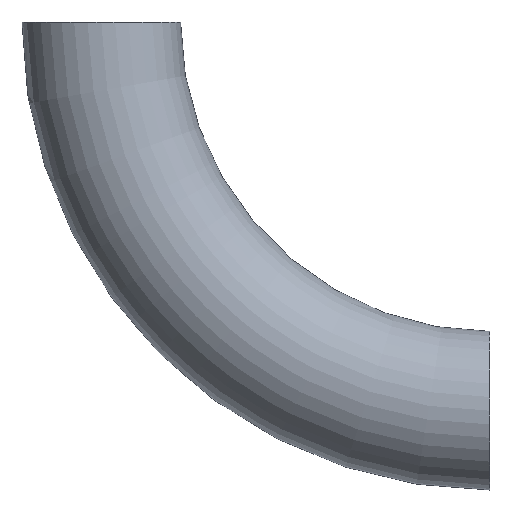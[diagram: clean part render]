
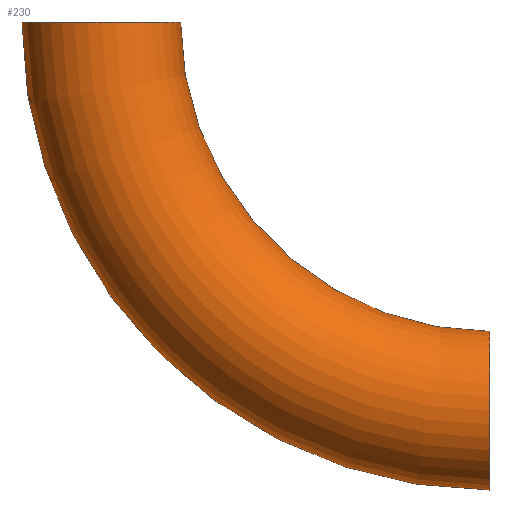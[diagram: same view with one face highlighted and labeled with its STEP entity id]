
A CAD part, front view. The second image highlights one B-rep face of the part: STEP entity #230.
In plain terms, the highlighted toroidal (fillet/blend) face has major radius 500 mm and minor radius 102 mm.
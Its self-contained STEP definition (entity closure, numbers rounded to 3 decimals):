
#4 = ORIENTED_EDGE ( 'NONE', *, *, #61, .F. ) ;
#9 = CARTESIAN_POINT ( 'NONE',  ( -398., 0., 0. ) ) ;
#12 = DIRECTION ( 'NONE',  ( 0., 1., 0. ) ) ;
#14 = CARTESIAN_POINT ( 'NONE',  ( -500., 0., 0. ) ) ;
#16 = AXIS2_PLACEMENT_3D ( 'NONE', #14, #166, #49 ) ;
#30 = CARTESIAN_POINT ( 'NONE',  ( 0., 0., 0. ) ) ;
#31 = DIRECTION ( 'NONE',  ( 0., 0., 1. ) ) ;
#32 = DIRECTION ( 'NONE',  ( 0., 0., 1. ) ) ;
#38 = AXIS2_PLACEMENT_3D ( 'NONE', #132, #183, #144 ) ;
#40 = EDGE_LOOP ( 'NONE', ( #4, #116, #231, #198 ) ) ;
#48 = CARTESIAN_POINT ( 'NONE',  ( 0., 0., -602. ) ) ;
#49 = DIRECTION ( 'NONE',  ( 1., 0., 0. ) ) ;
#56 = VERTEX_POINT ( 'NONE', #77 ) ;
#61 = EDGE_CURVE ( 'NONE', #153, #96, #222, .T. ) ;
#74 = VERTEX_POINT ( 'NONE', #9 ) ;
#77 = CARTESIAN_POINT ( 'NONE',  ( 0., 0., -398. ) ) ;
#84 = CARTESIAN_POINT ( 'NONE',  ( 0., 0., 0. ) ) ;
#96 = VERTEX_POINT ( 'NONE', #223 ) ;
#106 = AXIS2_PLACEMENT_3D ( 'NONE', #84, #167, #224 ) ;
#107 = FACE_OUTER_BOUND ( 'NONE', #40, .T. ) ;
#116 = ORIENTED_EDGE ( 'NONE', *, *, #191, .T. ) ;
#132 = CARTESIAN_POINT ( 'NONE',  ( 0., 0., 0. ) ) ;
#144 = DIRECTION ( 'NONE',  ( 0., 0., 1. ) ) ;
#153 = VERTEX_POINT ( 'NONE', #48 ) ;
#161 = CIRCLE ( 'NONE', #106, 398. ) ;
#166 = DIRECTION ( 'NONE',  ( 0., 0., 1. ) ) ;
#167 = DIRECTION ( 'NONE',  ( 0., 1., 0. ) ) ;
#168 = TOROIDAL_SURFACE ( 'NONE', #38, 500., 102. ) ;
#173 = CIRCLE ( 'NONE', #213, 102. ) ;
#183 = DIRECTION ( 'NONE',  ( 0., 1., 0. ) ) ;
#190 = AXIS2_PLACEMENT_3D ( 'NONE', #30, #12, #32 ) ;
#191 = EDGE_CURVE ( 'NONE', #153, #56, #173, .T. ) ;
#198 = ORIENTED_EDGE ( 'NONE', *, *, #200, .F. ) ;
#200 = EDGE_CURVE ( 'NONE', #96, #74, #204, .T. ) ;
#204 = CIRCLE ( 'NONE', #16, 102. ) ;
#205 = DIRECTION ( 'NONE',  ( -1., 0., 0. ) ) ;
#212 = EDGE_CURVE ( 'NONE', #56, #74, #161, .T. ) ;
#213 = AXIS2_PLACEMENT_3D ( 'NONE', #221, #205, #31 ) ;
#221 = CARTESIAN_POINT ( 'NONE',  ( 0., 0., -500. ) ) ;
#222 = CIRCLE ( 'NONE', #190, 602. ) ;
#223 = CARTESIAN_POINT ( 'NONE',  ( -602., 0., 0. ) ) ;
#224 = DIRECTION ( 'NONE',  ( 0., 0., 1. ) ) ;
#230 = ADVANCED_FACE ( 'NONE', ( #107 ), #168, .T. ) ;
#231 = ORIENTED_EDGE ( 'NONE', *, *, #212, .T. ) ;
